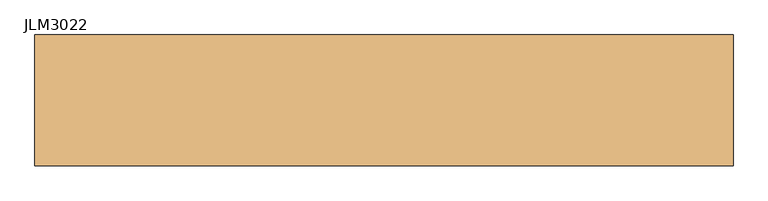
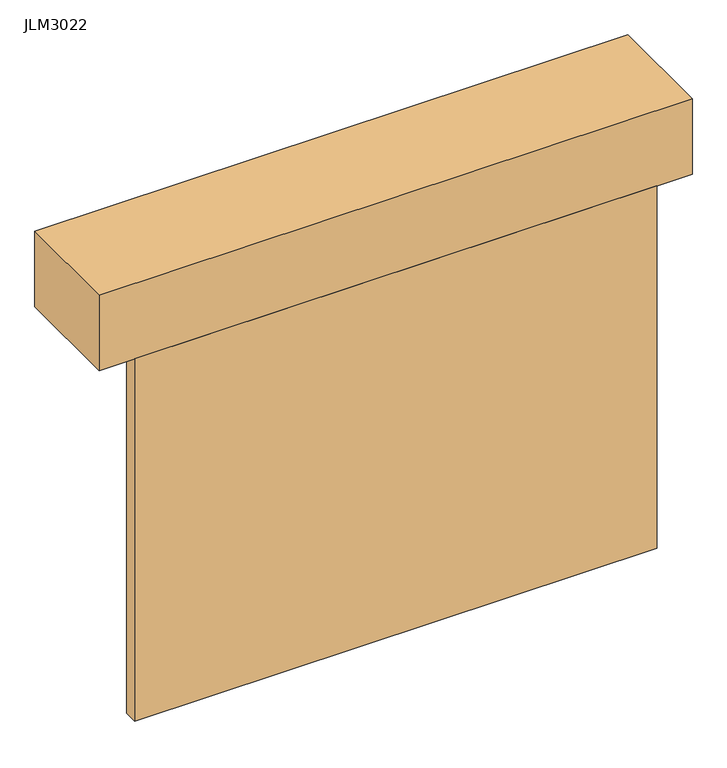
"""IFC4 building model written with IfcOpenShell, lengths in millimetres: door geometry, 滑升门 : JLM3022."""

from ifc_helpers import new_model, si_unit, frame, origin, origin_with_axes, place, context, project, spatial, polyline, outline, extrude, source, transform, mapped, element, save


def jlm3022_3efa1593(model_context):
    return source(origin(), model_context, "Body", "SweptSolid", [
        extrude(outline(polyline([(1500.0, 120.0), (-1500.0, 120.0), (-1500.0, 200.0), (1500.0, 200.0), (1500.0, 120.0)])), origin_with_axes(), (0.0, 0.0, 1.0), 2200.0),
        extrude(outline(polyline([(1703.2, 758.8), (1703.2, 120.0), (-1703.2, 120.0), (-1703.2, 758.8), (1703.2, 758.8)])), frame((0.0, 0.0, 2200.0), z_axis=(0.0, 0.0, 1.0), x_axis=(1.0, 0.0, 0.0)), (0.0, 0.0, 1.0), 457.2),
    ])


if __name__ == "__main__":
    model = new_model("IFC4")
    model_context = context("Model", 3, world=origin())
    ifc_project = project(units=[si_unit("LENGTHUNIT", "METRE", prefix="MILLI")], contexts=[model_context])
    site = spatial("IfcSite", under=ifc_project)
    building = spatial("IfcBuilding", under=site)
    placement = place(None, origin())
    jlm3022_shape = jlm3022_3efa1593(model_context)
    element("IfcDoor", 1, ObjectType="滑升门 : JLM3022", at=placement, inside=building, context=model_context, shape_type="MappedRepresentation", body=[
        mapped(jlm3022_shape, transform((0.0, 0.0, 0.0), x_axis=(1.0, 0.0, 0.0), y_axis=(0.0, 1.0, 0.0), z_axis=(0.0, 0.0, 1.0))),
    ])
    save(model, "model.ifc")
